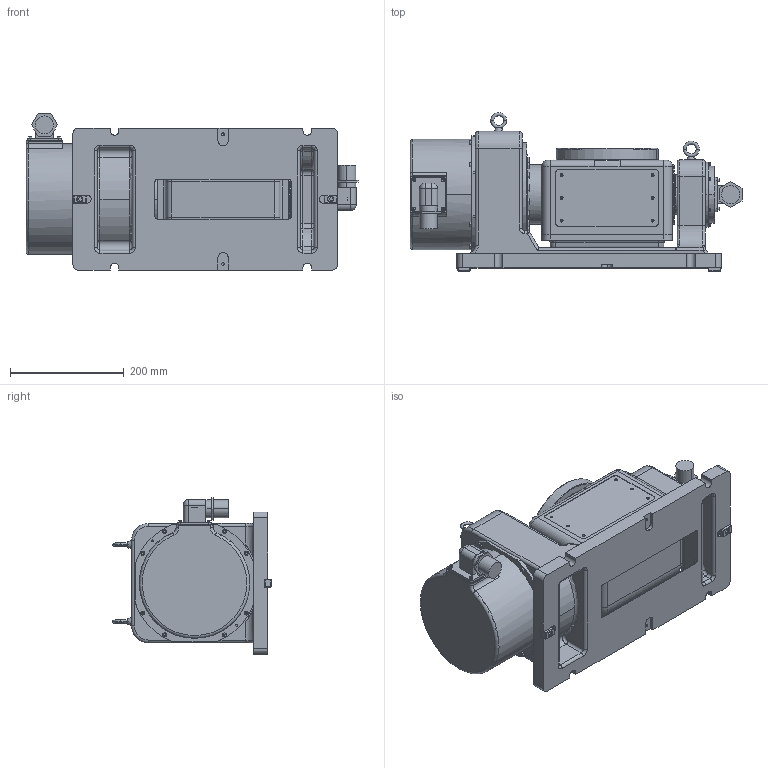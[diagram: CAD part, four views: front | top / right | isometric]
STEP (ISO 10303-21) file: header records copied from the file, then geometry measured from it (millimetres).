
FILE_DESCRIPTION (( 'STEP AP214' ), '1' );
FILE_NAME ('KUR-180HEBM 軞蚾饜芞.STEP', '2022-09-21T05:42:55', ( '' ), ( '' ), 'SwSTEP 2.0', 'SolidWorks 2020', '' );
FILE_SCHEMA (( 'AUTOMOTIVE_DESIGN' ));
Length unit declared in the file: millimetre
Products named in the file (1): KUR-180HEBM 軞蚾饜芞
Bounding box: 583.7 x 278.96 x 275.2 mm (x, y, z)
Volume: 6572704.8 mm3; surface area: 1285793.3 mm2
Topology: 106 solids, 107 shells, 2900 faces, 6548 edges, 3975 vertices
Faces by surface type: plane 1105, cylinder 1011, cone 362, torus 358, bspline 50, sphere 14
Entity records: 116987 total; most frequent: CARTESIAN_POINT 18844, DIRECTION 14814, ORIENTED_EDGE 12848, EDGE_CURVE 6424, AXIS2_PLACEMENT_3D 5913, VERTEX_POINT 3975, EDGE_LOOP 3321, CIRCLE 3062
